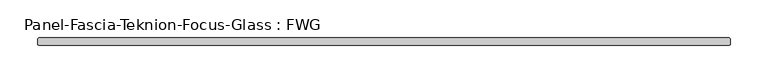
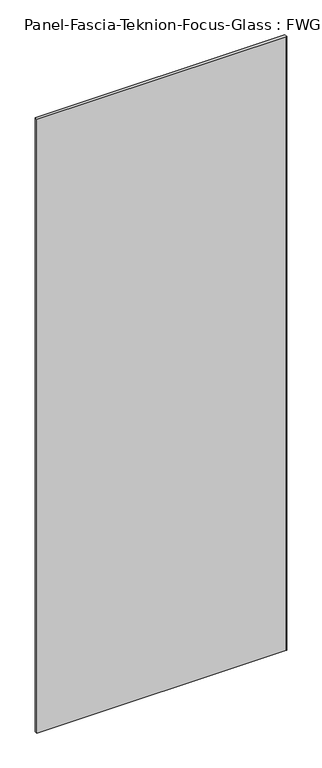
"""IFC4 building model written with IfcOpenShell, lengths in millimetres: proxy geometry, Panel-Fascia-Teknion-Focus-Glass : FWG."""

from ifc_helpers import new_model, si_unit, origin, origin_with_axes, place, context, project, spatial, polyline, outline, extrude, source, transform, mapped, element, save


def panel_fascia_teknion_focus_glass_fwg_2c213c9e(model_context):
    return source(origin(), model_context, "Body", "SweptSolid", [
        extrude(outline(polyline([(456.2, 5.0), (457.2, 4.0), (457.2, -4.0), (456.2, -5.0), (-456.2, -5.0), (-457.2, -4.0), (-457.2, 4.0), (-456.2, 5.0), (456.2, 5.0)])), origin_with_axes(), (0.0, 0.0, 1.0), 2371.4000026),
    ])


if __name__ == "__main__":
    model = new_model("IFC4")
    model_context = context("Model", 3, world=origin())
    ifc_project = project(units=[si_unit("LENGTHUNIT", "METRE", prefix="MILLI")], contexts=[model_context])
    site = spatial("IfcSite", under=ifc_project)
    building = spatial("IfcBuilding", under=site)
    placement = place(None, origin())
    panel_fascia_teknion_focus_glass_fwg_shape = panel_fascia_teknion_focus_glass_fwg_2c213c9e(model_context)
    element("IfcBuildingElementProxy", 1, Name="Panel-Fascia-Teknion-Focus-Glass : FWG", ObjectType="Panel-Fascia-Teknion-Focus-Glass : FWG", at=placement, inside=building, context=model_context, shape_type="MappedRepresentation", body=[
        mapped(panel_fascia_teknion_focus_glass_fwg_shape, transform((0.0, 0.0, 0.0), x_axis=(1.0, 0.0, 0.0), y_axis=(0.0, 1.0, 0.0), z_axis=(0.0, 0.0, 1.0))),
    ])
    save(model, "model.ifc")
